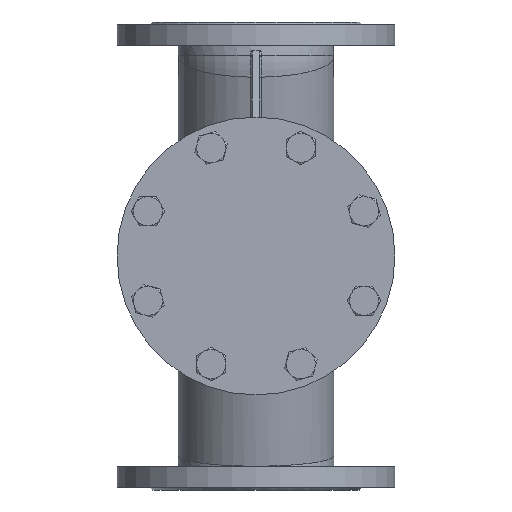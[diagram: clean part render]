
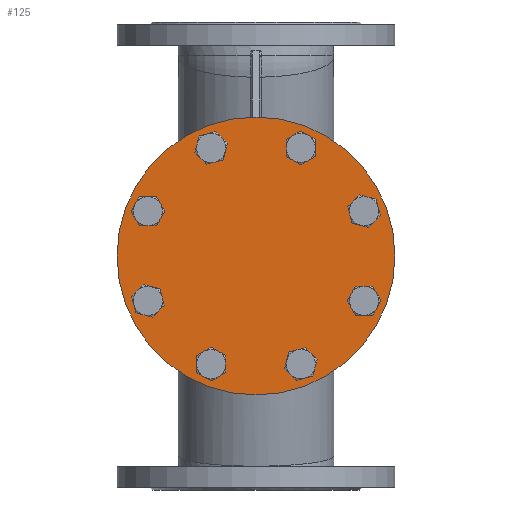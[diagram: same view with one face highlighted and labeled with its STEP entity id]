
A CAD part, front view. The second image highlights one B-rep face of the part: STEP entity #125.
In plain terms, the highlighted planar face has unit normal (0, -1, 0).
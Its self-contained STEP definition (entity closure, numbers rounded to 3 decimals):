
#125=ADVANCED_FACE('',(#10004,#10006,#10008,#10010,#10012,#10014,#10016,#10018,#10020),
#10022,.F.);
#10004=FACE_BOUND('',#10005,.T.);
#10005=EDGE_LOOP('',(#23505));
#10006=FACE_BOUND('',#10007,.T.);
#10007=EDGE_LOOP('',(#23506));
#10008=FACE_BOUND('',#10009,.T.);
#10009=EDGE_LOOP('',(#23507));
#10010=FACE_BOUND('',#10011,.T.);
#10011=EDGE_LOOP('',(#23508));
#10012=FACE_BOUND('',#10013,.T.);
#10013=EDGE_LOOP('',(#23509));
#10014=FACE_BOUND('',#10015,.T.);
#10015=EDGE_LOOP('',(#23510));
#10016=FACE_BOUND('',#10017,.T.);
#10017=EDGE_LOOP('',(#23511));
#10018=FACE_BOUND('',#10019,.T.);
#10019=EDGE_LOOP('',(#23512));
#10020=FACE_BOUND('',#10021,.T.);
#10021=EDGE_LOOP('',(#23513));
#10022=PLANE('',#10023);
#10023=AXIS2_PLACEMENT_3D('',#10024,#10025,#10026);
#10024=CARTESIAN_POINT('',(0.,-262.,0.));
#10025=DIRECTION('',(0.,1.,0.));
#10026=DIRECTION('',(1.,0.,0.));
#23505=ORIENTED_EDGE('',*,*,#31343,.F.);
#23506=ORIENTED_EDGE('',*,*,#31344,.F.);
#23507=ORIENTED_EDGE('',*,*,#31345,.F.);
#23508=ORIENTED_EDGE('',*,*,#31346,.F.);
#23509=ORIENTED_EDGE('',*,*,#31347,.F.);
#23510=ORIENTED_EDGE('',*,*,#31348,.F.);
#23511=ORIENTED_EDGE('',*,*,#31349,.F.);
#23512=ORIENTED_EDGE('',*,*,#31350,.F.);
#23513=ORIENTED_EDGE('',*,*,#31351,.F.);
#31343=EDGE_CURVE('',#35014,#35014,#35015,.T.);
#31344=EDGE_CURVE('',#35016,#35016,#35017,.T.);
#31345=EDGE_CURVE('',#35018,#35018,#35019,.T.);
#31346=EDGE_CURVE('',#35020,#35020,#35021,.T.);
#31347=EDGE_CURVE('',#35022,#35022,#35023,.T.);
#31348=EDGE_CURVE('',#35024,#35024,#35025,.T.);
#31349=EDGE_CURVE('',#35026,#35026,#35027,.T.);
#31350=EDGE_CURVE('',#35028,#35028,#35029,.T.);
#31351=EDGE_CURVE('',#35030,#35030,#35031,.T.);
#35014=VERTEX_POINT('',#41101);
#35015=CIRCLE('',#41102,142.5);
#35016=VERTEX_POINT('',#41106);
#35017=CIRCLE('',#41107,15.);
#35018=VERTEX_POINT('',#41111);
#35019=CIRCLE('',#41112,15.);
#35020=VERTEX_POINT('',#41116);
#35021=CIRCLE('',#41117,15.);
#35022=VERTEX_POINT('',#41121);
#35023=CIRCLE('',#41122,15.);
#35024=VERTEX_POINT('',#41126);
#35025=CIRCLE('',#41127,15.);
#35026=VERTEX_POINT('',#41131);
#35027=CIRCLE('',#41132,15.);
#35028=VERTEX_POINT('',#41136);
#35029=CIRCLE('',#41137,15.);
#35030=VERTEX_POINT('',#41141);
#35031=CIRCLE('',#41142,15.);
#41101=CARTESIAN_POINT('',(142.5,-262.,0.));
#41102=AXIS2_PLACEMENT_3D('',#41103,#41104,#41105);
#41103=CARTESIAN_POINT('',(0.,-262.,0.));
#41104=DIRECTION('',(0.,1.,0.));
#41105=DIRECTION('',(1.,0.,0.));
#41106=CARTESIAN_POINT('',(-100.259,-262.,-56.529));
#41107=AXIS2_PLACEMENT_3D('',#41108,#41109,#41110);
#41108=CARTESIAN_POINT('',(-110.866,-262.,-45.922));
#41109=DIRECTION('',(0.,-1.,0.));
#41110=DIRECTION('',(0.707,0.,-0.707));
#41111=CARTESIAN_POINT('',(-56.529,-262.,100.259));
#41112=AXIS2_PLACEMENT_3D('',#41113,#41114,#41115);
#41113=CARTESIAN_POINT('',(-45.922,-262.,110.866));
#41114=DIRECTION('',(0.,-1.,0.));
#41115=DIRECTION('',(-0.707,0.,-0.707));
#41116=CARTESIAN_POINT('',(100.259,-262.,56.529));
#41117=AXIS2_PLACEMENT_3D('',#41118,#41119,#41120);
#41118=CARTESIAN_POINT('',(110.866,-262.,45.922));
#41119=DIRECTION('',(0.,-1.,0.));
#41120=DIRECTION('',(-0.707,0.,0.707));
#41121=CARTESIAN_POINT('',(56.529,-262.,-100.259));
#41122=AXIS2_PLACEMENT_3D('',#41123,#41124,#41125);
#41123=CARTESIAN_POINT('',(45.922,-262.,-110.866));
#41124=DIRECTION('',(0.,-1.,0.));
#41125=DIRECTION('',(0.707,0.,0.707));
#41126=CARTESIAN_POINT('',(-30.922,-262.,-110.866));
#41127=AXIS2_PLACEMENT_3D('',#41128,#41129,#41130);
#41128=CARTESIAN_POINT('',(-45.922,-262.,-110.866));
#41129=DIRECTION('',(0.,-1.,0.));
#41130=DIRECTION('',(1.,0.,0.));
#41131=CARTESIAN_POINT('',(-110.866,-262.,30.922));
#41132=AXIS2_PLACEMENT_3D('',#41133,#41134,#41135);
#41133=CARTESIAN_POINT('',(-110.866,-262.,45.922));
#41134=DIRECTION('',(0.,-1.,0.));
#41135=DIRECTION('',(0.,0.,-1.));
#41136=CARTESIAN_POINT('',(30.922,-262.,110.866));
#41137=AXIS2_PLACEMENT_3D('',#41138,#41139,#41140);
#41138=CARTESIAN_POINT('',(45.922,-262.,110.866));
#41139=DIRECTION('',(0.,-1.,0.));
#41140=DIRECTION('',(-1.,0.,0.));
#41141=CARTESIAN_POINT('',(110.866,-262.,-30.922));
#41142=AXIS2_PLACEMENT_3D('',#41143,#41144,#41145);
#41143=CARTESIAN_POINT('',(110.866,-262.,-45.922));
#41144=DIRECTION('',(0.,-1.,0.));
#41145=DIRECTION('',(0.,0.,1.));
